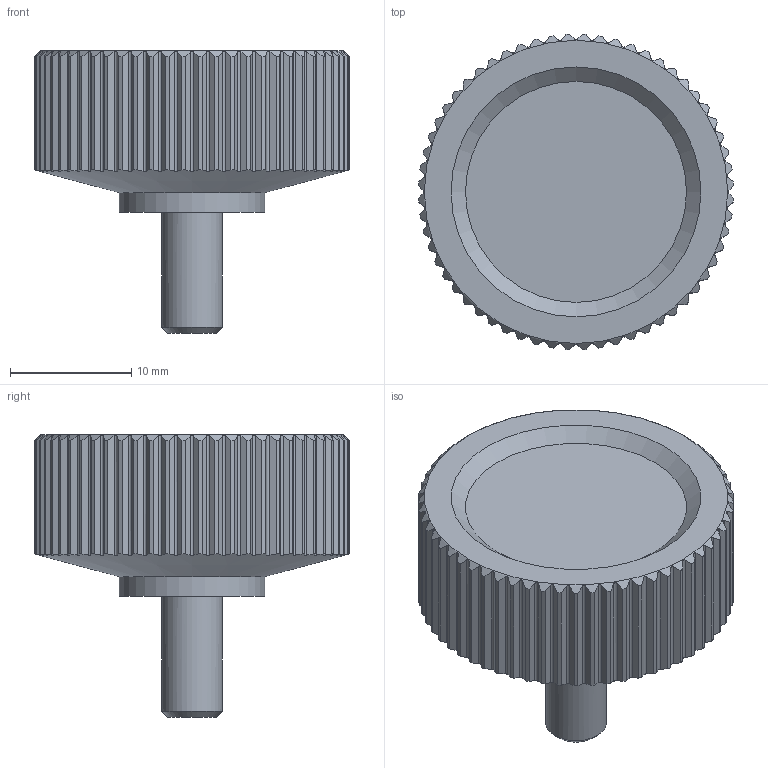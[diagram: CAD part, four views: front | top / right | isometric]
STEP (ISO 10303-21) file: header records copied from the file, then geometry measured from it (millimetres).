
FILE_DESCRIPTION( ('This file contains a STEP AP42 implementation' ,'as created by ZW3D STEP Interface translator.') ,'2;1' );
FILE_NAME( 'Pokretlo radelkowe 26 GZ.stp' ,'26 813.133053', (''), ('ZWCAD Software Co.'), 'Version 1.0', 'ZW3D to STEP translator', '' );
FILE_SCHEMA(('AP242_MANAGED_MODEL_BASED_3D_ENGINEERING_MIM_LF { 1 0 10303 442 1 1 4 }'));
Length unit declared in the file: millimetre
Products named in the file (1): 0
Bounding box: 25.98 x 25.98 x 23.3 mm (x, y, z)
Volume: 5686.8 mm3; surface area: 2569.5 mm2
Topology: 2 solids, 2 shells, 269 faces, 792 edges, 534 vertices
Faces by surface type: plane 142, cylinder 123, cone 4
Full cylindrical faces by diameter (mm): 5 x2, 12 x1
Entity records: 9495 total; most frequent: CARTESIAN_POINT 2848, ORIENTED_EDGE 1574, DIRECTION 1117, EDGE_CURVE 787, VERTEX_POINT 524, AXIS2_PLACEMENT_3D 417, VECTOR 283, LINE 283
